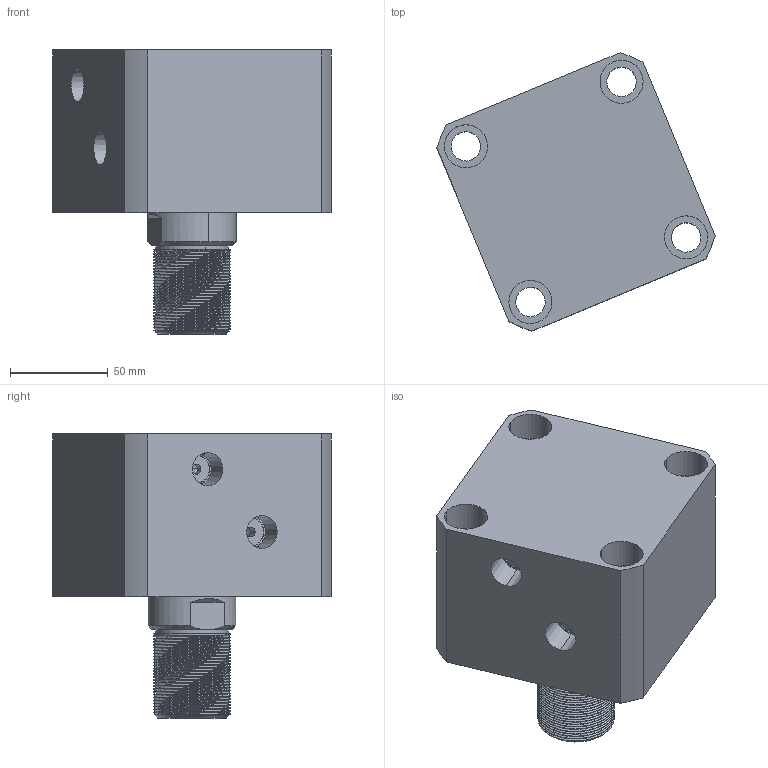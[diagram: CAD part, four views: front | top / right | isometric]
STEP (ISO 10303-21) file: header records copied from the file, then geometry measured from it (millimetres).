
FILE_DESCRIPTION (( 'STEP AP214' ), '1' );
FILE_NAME ('chtb-sd80x5n_asm.STEP', '2018-05-26T08:51:28', ( 'Windows' ), ( 'Microsoft' ), 'SwSTEP 2.0', 'SolidWorks 2015', '' );
FILE_SCHEMA (( 'AUTOMOTIVE_DESIGN' ));
Length unit declared in the file: millimetre
Products named in the file (4): CHTB-SD80X5NHSG; CHTB-SD80X5NBT; CHTB-SD80QG; chtb-sd80x5n_asm
Assembly tree (3 placements, depth 2):
  chtb-sd80x5n_asm
    CHTB-SD80QG
    CHTB-SD80X5NBT
    CHTB-SD80X5NHSG
Bounding box: 142.06 x 142.06 x 145 mm (x, y, z)
Volume: 1020698.4 mm3; surface area: 161464 mm2
Topology: 3 solids, 3 shells, 253 faces, 689 edges, 462 vertices
Faces by surface type: cylinder 159, plane 40, cone 20, torus 18, bspline 16
Entity records: 20271 total; most frequent: CARTESIAN_POINT 14293, ORIENTED_EDGE 1370, DIRECTION 1078, EDGE_CURVE 685, VERTEX_POINT 462, AXIS2_PLACEMENT_3D 439, EDGE_LOOP 291, ADVANCED_FACE 253
